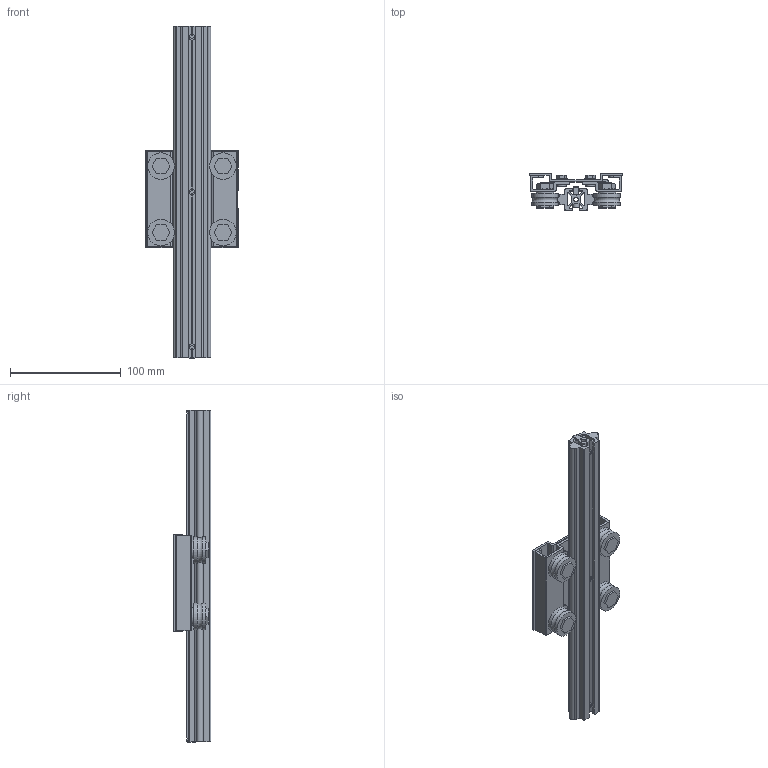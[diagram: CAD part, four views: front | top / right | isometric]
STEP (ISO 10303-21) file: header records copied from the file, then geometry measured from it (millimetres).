
FILE_DESCRIPTION (( 'STEP AP214' ), '1' );
FILE_NAME ('LSR2020B.STEP', '2020-06-23T04:12:17', ( '' ), ( '' ), 'SwSTEP 2.0', 'SolidWorks 2019', '' );
FILE_SCHEMA (( 'AUTOMOTIVE_DESIGN' ));
Length unit declared in the file: millimetre
Products named in the file (3): LS2020Bキャリッジ; LSR2020Bレール; LSR2020B
Assembly tree (2 placements, depth 2):
  LSR2020B
    LSR2020Bレール
    LS2020Bキャリッジ
Bounding box: 84 x 34 x 300.02 mm (x, y, z)
Volume: 168102.7 mm3; surface area: 113309.2 mm2
Topology: 7 solids, 7 shells, 442 faces, 1136 edges, 730 vertices
Faces by surface type: plane 284, cylinder 94, cone 60, torus 4
Full cylindrical faces by diameter (mm): 4.134 x4, 4.2 x1, 5.5 x3, 6.647 x4, 8 x8, 10 x4, 16 x4, 24 x8
Entity records: 14702 total; most frequent: CARTESIAN_POINT 2439, ORIENTED_EDGE 2154, DIRECTION 2132, EDGE_CURVE 1077, LINE 724, VECTOR 724, VERTEX_POINT 723, AXIS2_PLACEMENT_3D 704
